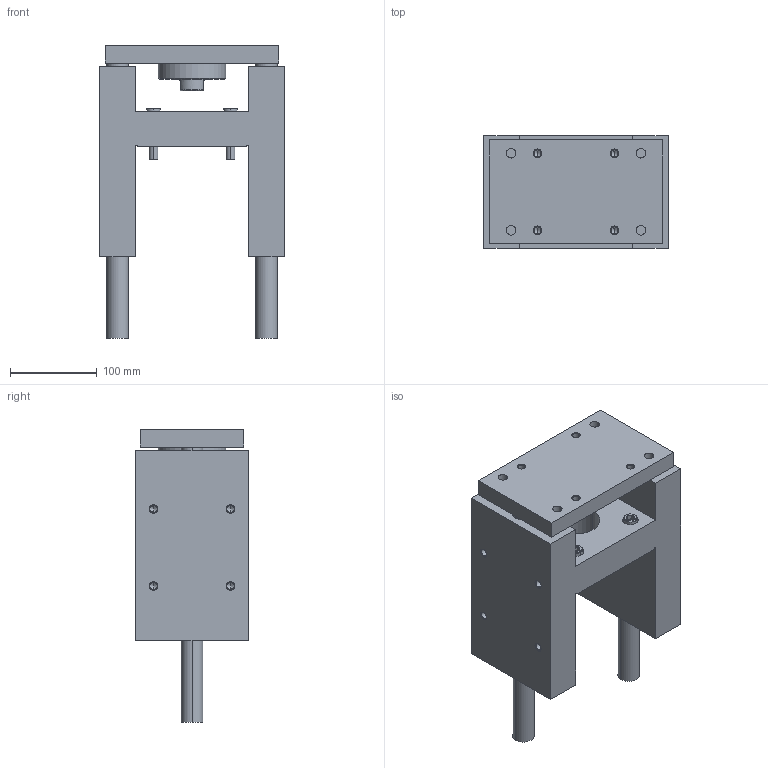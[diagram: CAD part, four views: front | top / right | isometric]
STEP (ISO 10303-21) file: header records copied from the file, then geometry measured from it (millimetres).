
FILE_DESCRIPTION (( 'STEP AP203' ), '1' );
FILE_NAME ('GB100-75.STEP', '2020-04-24T13:42:05', ( '' ), ( '' ), 'SwSTEP 2.0', 'SolidWorks 2019', '' );
FILE_SCHEMA (( 'CONFIG_CONTROL_DESIGN' ));
Length unit declared in the file: millimetre
Products named in the file (1): GB100-75
Bounding box: 213 x 130 x 338 mm (x, y, z)
Volume: 3566002.9 mm3; surface area: 386560.6 mm2
Topology: 6 solids, 6 shells, 329 faces, 728 edges, 412 vertices
Faces by surface type: cone 134, cylinder 98, plane 97
Entity records: 9631 total; most frequent: CARTESIAN_POINT 2242, DIRECTION 1662, ORIENTED_EDGE 1392, EDGE_CURVE 696, AXIS2_PLACEMENT_3D 664, VERTEX_POINT 412, EDGE_LOOP 392, CIRCLE 334
